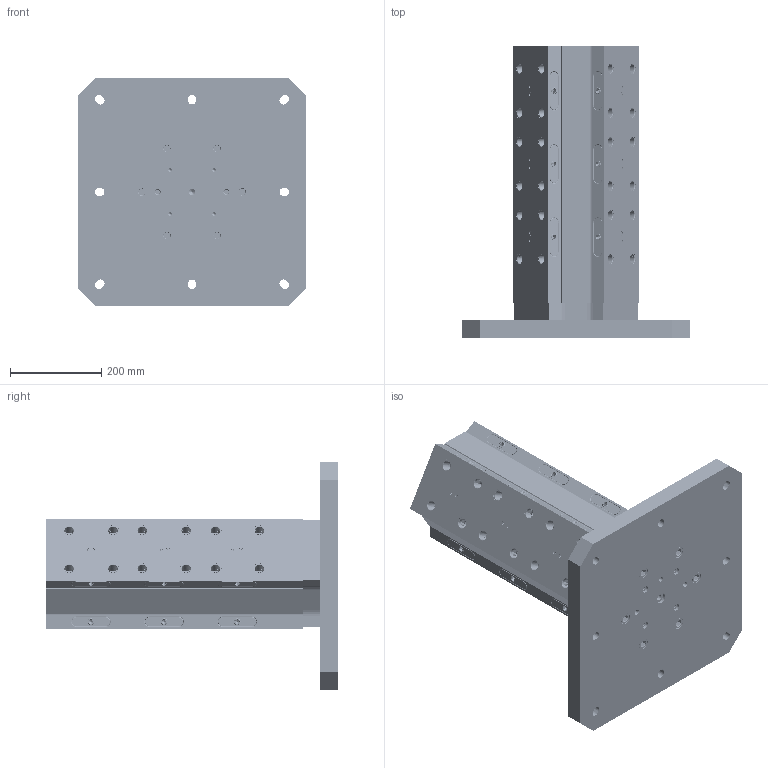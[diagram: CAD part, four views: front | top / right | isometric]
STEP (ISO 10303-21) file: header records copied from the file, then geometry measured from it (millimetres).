
FILE_DESCRIPTION (( 'STEP AP214' ), '1' );
FILE_NAME ('RL96A-5003U-638_WEBSITE.step', '2025-08-11T11:24:15', ( '' ), ( '' ), 'SwSTEP 2.0', 'SolidWorks 2025', '' );
FILE_SCHEMA (( 'AUTOMOTIVE_DESIGN' ));
Length unit declared in the file: millimetre
Products named in the file (11): RL96-5003-600A_WEBSITE_RL96-4003TA TOWER; SB54_WEBSITE_FINISHED PART; RL96-2R_WEBSITE_ENGRAVING; RL96-14TC_WEBSITE; HW.76172_WEBSITE; HW.76452_WEBSITE_91290A835; HW27X20.DB_WEBSITE_PLATING; RL96A-5003U-638_WEBSITE; RL96-3_WEBSITE_PLATING; 033.OR_WEBSITE; RL96-2L_WEBSITE
Assembly tree (129 placements, depth 2):
  RL96A-5003U-638_WEBSITE
    RL96-5003-600A_WEBSITE_RL96-4003TA TOWER
    RL96-14TC_WEBSITE
    HW.76172_WEBSITE  x4
    HW27X20.DB_WEBSITE_PLATING  x36
    SB54_WEBSITE_FINISHED PART  x36
    RL96-2R_WEBSITE_ENGRAVING  x9
    RL96-2L_WEBSITE  x9
    RL96-3_WEBSITE_PLATING  x9
    HW.76452_WEBSITE_91290A835  x6
    033.OR_WEBSITE  x18
Bounding box: 500 x 638.1 x 500 mm (x, y, z)
Volume: 26823326.9 mm3; surface area: 2106364.1 mm2
Topology: 130 solids, 130 shells, 3670 faces, 8453 edges, 5331 vertices
Faces by surface type: plane 2174, cylinder 1034, cone 318, torus 144
Full cylindrical faces by diameter (mm): 1.778 x36, 2.642 x36, 3.3 x18, 4 x36, 4.7 x36, 5 x40, 5.182 x18, 6 x4, 6.6 x4, 8.204 x18, 8.5 x4, 9 x36, 9.525 x18, 10 x4, 10.025 x4, 10.2 x4, 10.795 x9, 11 x4, 11.938 x36, 12 x1, 12.573 x36, 14 x25, 15.748 x18, 16 x6, 16.02 x4, 17.5 x12, 19.05 x18, 19.101 x36, 19.99 x9, 20.015 x36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
Entity records: 39344 total; most frequent: CARTESIAN_POINT 10127, DIRECTION 6138, ORIENTED_EDGE 4652, AXIS2_PLACEMENT_3D 2585, EDGE_CURVE 2326, EDGE_LOOP 2058, VERTEX_POINT 1718, FACE_OUTER_BOUND 1617
